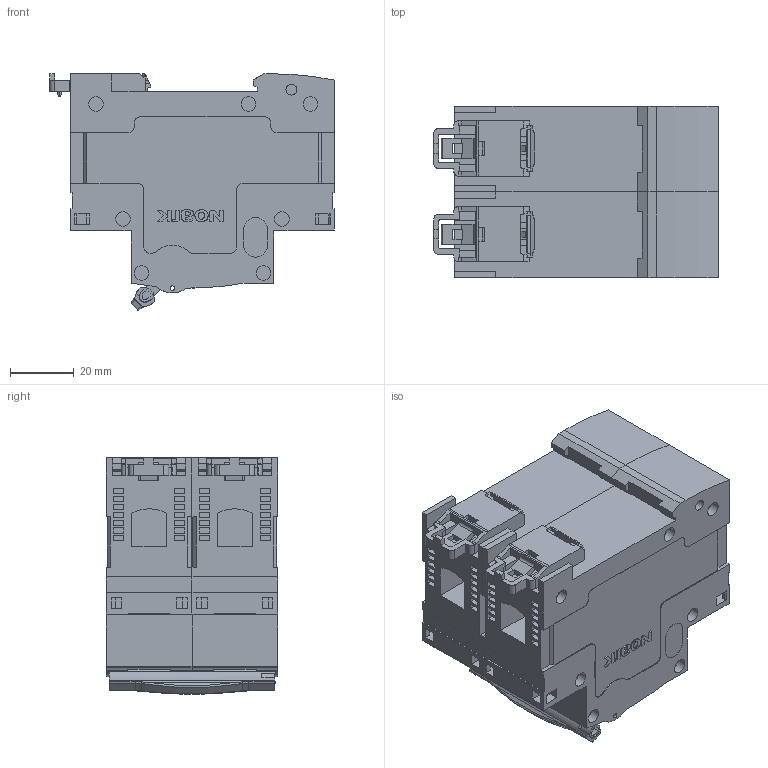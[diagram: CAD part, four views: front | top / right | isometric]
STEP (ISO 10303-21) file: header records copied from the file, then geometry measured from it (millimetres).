
FILE_DESCRIPTION((''),'2;1');
FILE_NAME('2P_ASM','2024-08-29T10:04:17',('zxueq'),(''),'CREO PARAMETRIC BY PTC INC, 2020044','CREO PARAMETRIC BY PTC INC, 2020044','');
FILE_SCHEMA(('CONFIG_CONTROL_DESIGN','SHAPE_APPEARANCE_LAYERS_GROUPS'));
Length unit declared in the file: millimetre
Products named in the file (6): BENTI; 8100I0101003; 8270I0101002; 5270I0126001_ASM; 8259B0101102; 2P_ASM
Assembly tree (7 placements, depth 3):
  2P_ASM
    BENTI  x2
    5270I0126001_ASM  x2
      8100I0101003
      8270I0101002
    8259B0101102
Bounding box: 89.6 x 54 x 74.46 mm (x, y, z)
Volume: 236169.5 mm3; surface area: 49649.4 mm2
Topology: 7 solids, 7 shells, 1546 faces, 4256 edges, 2816 vertices
Faces by surface type: plane 1073, cylinder 313, extrusion 134, cone 16, bspline 10
Entity records: 29867 total; most frequent: CARTESIAN_POINT 6333, ORIENTED_EDGE 4448, DIRECTION 3955, EDGE_CURVE 2224, VECTOR 1755, LINE 1686, VERTEX_POINT 1468, AXIS2_PLACEMENT_3D 1100
